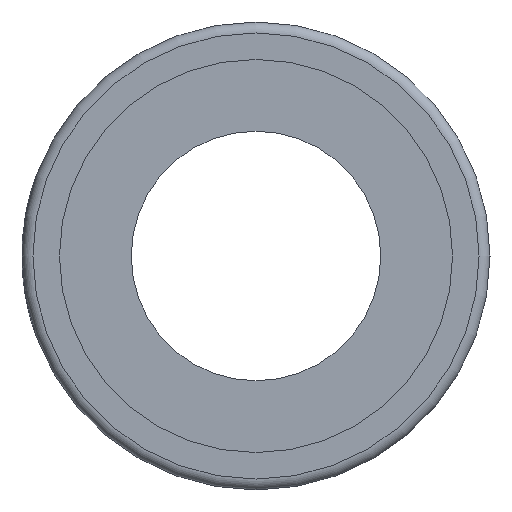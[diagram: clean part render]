
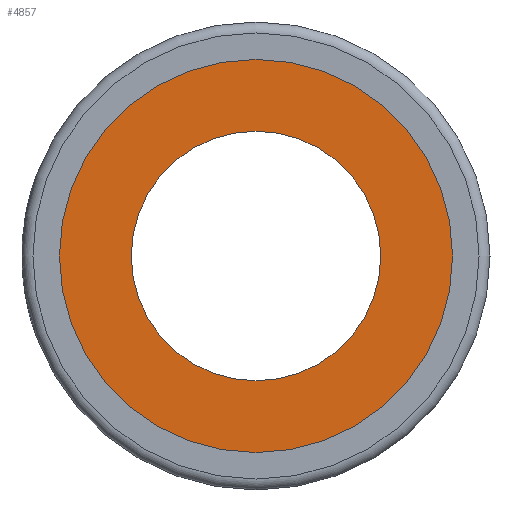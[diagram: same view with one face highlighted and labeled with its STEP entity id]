
A CAD part, left-side view. The second image highlights one B-rep face of the part: STEP entity #4857.
In plain terms, the highlighted planar face has unit normal (-1, 0, 0).
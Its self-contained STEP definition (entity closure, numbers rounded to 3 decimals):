
#1152=PLANE('',#5247);
#1550=ORIENTED_EDGE('',*,*,#2987,.F.);
#1551=ORIENTED_EDGE('',*,*,#2985,.F.);
#2985=EDGE_CURVE('',#3710,#3710,#4042,.T.);
#2987=EDGE_CURVE('',#3712,#3712,#4044,.T.);
#3710=VERTEX_POINT('',#7577);
#3712=VERTEX_POINT('',#7583);
#4042=CIRCLE('',#5244,6.3);
#4044=CIRCLE('',#5248,4.);
#4175=EDGE_LOOP('',(#1550));
#4176=EDGE_LOOP('',(#1551));
#4540=FACE_BOUND('',#4175,.T.);
#4541=FACE_BOUND('',#4176,.T.);
#4857=ADVANCED_FACE('',(#4540,#4541),#1152,.T.);
#5244=AXIS2_PLACEMENT_3D('',#7576,#5766,#5767);
#5247=AXIS2_PLACEMENT_3D('',#7581,#5772,#5773);
#5248=AXIS2_PLACEMENT_3D('',#7582,#5774,#5775);
#5766=DIRECTION('',(1.,0.,0.));
#5767=DIRECTION('',(0.,-1.,0.));
#5772=DIRECTION('',(-1.,0.,0.));
#5773=DIRECTION('',(0.,0.,1.));
#5774=DIRECTION('',(-1.,0.,0.));
#5775=DIRECTION('',(0.,0.,1.));
#7576=CARTESIAN_POINT('',(-11.76,0.,0.));
#7577=CARTESIAN_POINT('',(-11.76,-6.3,0.));
#7581=CARTESIAN_POINT('',(-11.76,0.,0.));
#7582=CARTESIAN_POINT('',(-11.76,0.,0.));
#7583=CARTESIAN_POINT('',(-11.76,0.,4.));
